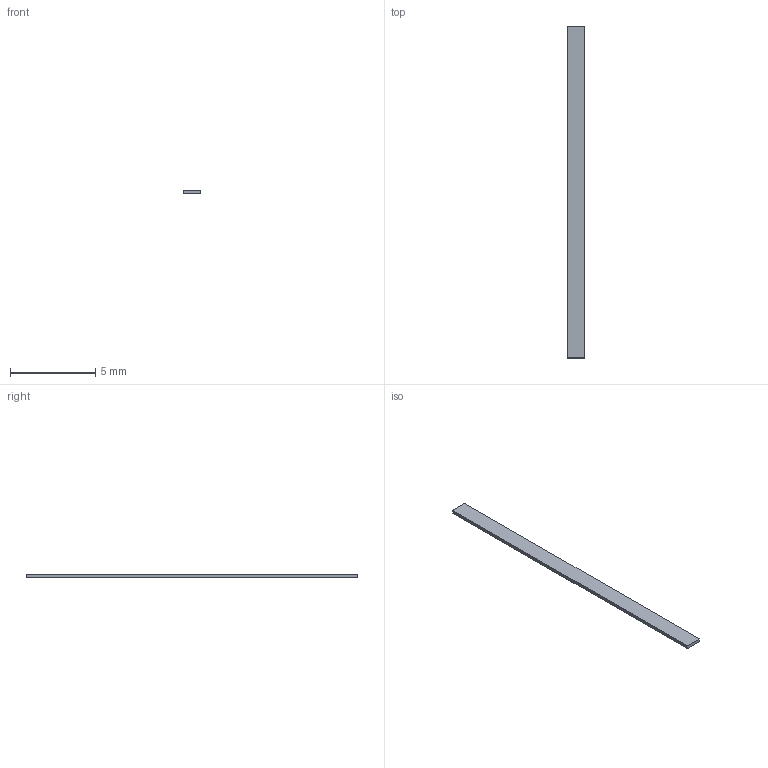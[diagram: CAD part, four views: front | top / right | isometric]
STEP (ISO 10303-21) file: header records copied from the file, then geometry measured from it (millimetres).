
FILE_DESCRIPTION(('Open CASCADE Model'),'2;1');
FILE_NAME('Open CASCADE Shape Model','2026-10-01T12:35:22',('Author'),( 'Open CASCADE'),'Open CASCADE STEP processor 7.8','Open CASCADE 7.8' ,'Unknown');
FILE_SCHEMA(('AUTOMOTIVE_DESIGN { 1 0 10303 214 1 1 1 1 }'));
Length unit declared in the file: millimetre
Products named in the file (2): H07_P06_C3_snap_cap_pad_-1; H07_P06_C3_snap_cap_pad_-1_solid
Assembly tree (1 placements, depth 2):
  H07_P06_C3_snap_cap_pad_-1
    H07_P06_C3_snap_cap_pad_-1_solid
Bounding box: 1 x 19.5 x 0.2 mm (x, y, z)
Volume: 3.9 mm3; surface area: 47.2 mm2
Topology: 1 solids, 1 shells, 6 faces, 12 edges, 8 vertices
Faces by surface type: plane 6
Entity records: 349 total; most frequent: CARTESIAN_POINT 52, DIRECTION 52, LINE 36, VECTOR 36, ORIENTED_EDGE 24, PCURVE 24, DEFINITIONAL_REPRESENTATION 24, EDGE_CURVE 12
